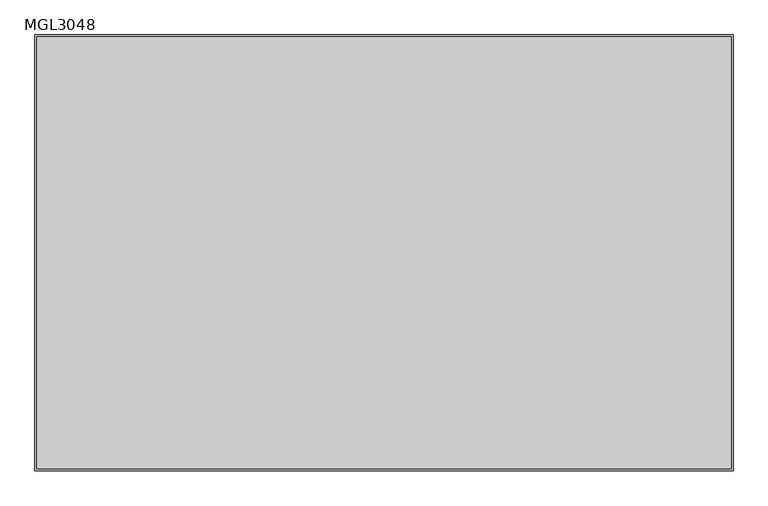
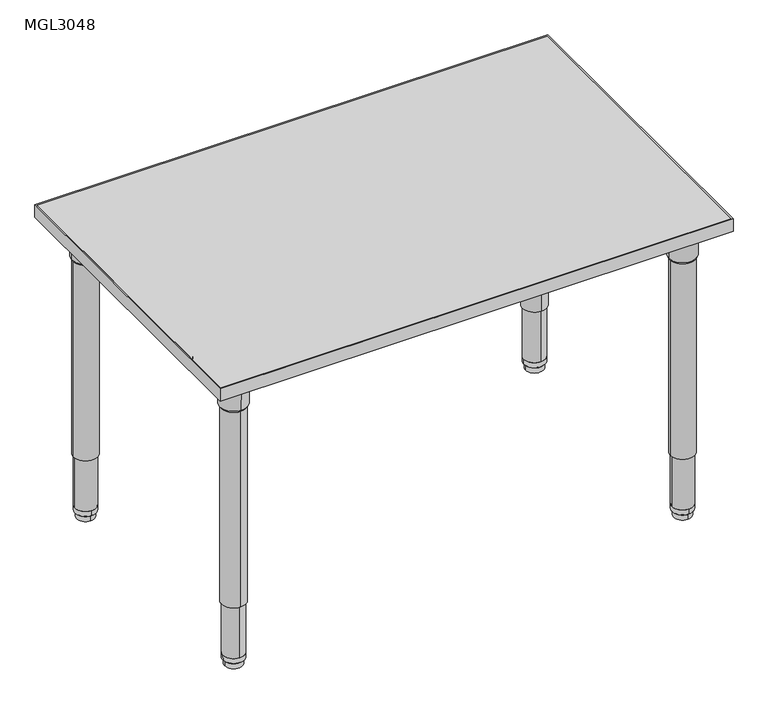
"""IFC4 building model written with IfcOpenShell, lengths in millimetres: furniture geometry, ERG-Mingle-Table-Rectangle : MGL3048."""

from ifc_helpers import new_model, si_unit, point, frame, frame_2d, origin, place, context, project, spatial, polyline, circle_curve, trimmed, segment, composite_curve, outline, extrude, source, transform, mapped, element, save
from ifc_brep_helpers import plane_surface, cylinder_surface, revolved_surface, advanced_brep


def mgl3048_d8aeffa5(model_context):
    return source(origin(), model_context, "Body", "SolidModel", [
        advanced_brep(
        [(503.3646842, -304.8, 650.5933069), (563.4353158, -304.8, 650.5933069), (533.4, -304.8, 650.5933069), (501.256117, -304.8, 654.3580481), (565.543883, -304.8, 654.3580481), (500.3206351, -304.8, 707.7631458), (566.4793649, -304.8, 707.7631458), (496.871083, -304.8, 714.1198315), (569.928917, -304.8, 714.1198315), (496.871083, -304.8, 726.8198315), (569.928917, -304.8, 726.8198315), (533.4, -304.8, 726.8198315)],
        [
            (0, 1, circle_curve(frame((533.4, -304.8, 650.5933069), z_axis=(0.0, 0.0, -1.0), x_axis=(1.0, 0.0, 0.0)), 30.0353158)),
            (1, 2),
            (2, 0),
            (1, 0, circle_curve(frame((533.4, -304.8, 650.5933069), z_axis=(0.0, 0.0, -1.0), x_axis=(1.0, 0.0, 0.0)), 30.0353158)),
            (3, 4, circle_curve(frame((533.4, -304.8, 654.3580481), z_axis=(0.0, 0.0, -1.0), x_axis=(1.0, 0.0, 0.0)), 32.143883)),
            (4, 1),
            (0, 3),
            (4, 3, circle_curve(frame((533.4, -304.8, 654.3580481), z_axis=(0.0, 0.0, -1.0), x_axis=(1.0, 0.0, 0.0)), 32.143883)),
            (5, 6, circle_curve(frame((533.4, -304.8, 707.7631458), z_axis=(0.0, 0.0, -1.0), x_axis=(1.0, 0.0, 0.0)), 33.0793649)),
            (6, 4),
            (3, 5),
            (6, 5, circle_curve(frame((533.4, -304.8, 707.7631458), z_axis=(0.0, 0.0, -1.0), x_axis=(1.0, 0.0, 0.0)), 33.0793649)),
            (7, 8, circle_curve(frame((533.4, -304.8, 714.1198315), z_axis=(0.0, 0.0, -1.0), x_axis=(1.0, 0.0, 0.0)), 36.528917)),
            (8, 6),
            (5, 7),
            (8, 7, circle_curve(frame((533.4, -304.8, 714.1198315), z_axis=(0.0, 0.0, -1.0), x_axis=(1.0, 0.0, 0.0)), 36.528917)),
            (9, 10, circle_curve(frame((533.4, -304.8, 726.8198315), z_axis=(0.0, 0.0, -1.0), x_axis=(1.0, 0.0, 0.0)), 36.528917)),
            (10, 8),
            (7, 9),
            (10, 9, circle_curve(frame((533.4, -304.8, 726.8198315), z_axis=(0.0, 0.0, -1.0), x_axis=(1.0, 0.0, 0.0)), 36.528917)),
            (11, 10),
            (9, 11),
        ],
        [
            plane_surface(frame((533.4, -304.8, 650.5933069), z_axis=(0.0, 0.0, -1.0), x_axis=(1.0, 0.0, 0.0))),
            revolved_surface(polyline([(563.4353158, -304.8, 650.5933069), (565.543883, -304.8, 654.3580481)]), (533.4, -304.8, 726.8198315), (0.0, 0.0, 1.0)),
            revolved_surface(polyline([(565.543883, -304.8, 654.3580481), (566.4793649, -304.8, 707.7631458)]), (533.4, -304.8, 726.8198315), (0.0, 0.0, 1.0)),
            revolved_surface(polyline([(566.4793649, -304.8, 707.7631458), (569.928917, -304.8, 714.1198315)]), (533.4, -304.8, 726.8198315), (0.0, 0.0, 1.0)),
            cylinder_surface(frame((533.4, -304.8, 726.8198315), z_axis=(0.0, 0.0, 1.0), x_axis=(1.0, 0.0, 0.0)), 36.528917),
            plane_surface(frame((533.4, -304.8, 726.8198315), z_axis=(0.0, 0.0, 1.0), x_axis=(1.0, 0.0, 0.0))),
        ],
        [
            (0, [[1, 2, 3]]),
            (0, [[4, -3, -2]]),
            (1, [[5, 6, -1, 7]]),
            (1, [[8, -7, -4, -6]]),
            (2, [[9, 10, -5, 11]]),
            (2, [[12, -11, -8, -10]]),
            (3, [[13, 14, -9, 15]]),
            (3, [[16, -15, -12, -14]]),
            (4, [[17, 18, -13, 19]]),
            (4, [[20, -19, -16, -18]]),
            (5, [[21, -17, 22]]),
            (5, [[-22, -20, -21]]),
        ],
    ),
        extrude(outline(composite_curve([segment(polyline([(579.273768, -222.2223426), (579.273768, -335.9483754)]), True, "CONTINUOUS"), segment(trimmed(circle_curve(frame_2d((563.398768, -335.9483754)), 15.875), [point((579.273768, -335.9483754))], [point((563.398768, -351.8233754))], False, "CARTESIAN"), True, "CONTINUOUS"), segment(polyline([(563.398768, -351.8233754), (449.6864205, -351.8233754)]), True, "CONTINUOUS"), segment(trimmed(circle_curve(frame_2d((449.6864205, -339.1233754)), 12.7), [point((449.6864205, -351.8233754))], [point((437.0491923, -337.8622394))], False, "CARTESIAN"), True, "CONTINUOUS"), segment(trimmed(circle_curve(frame_2d((579.5486077, -352.0830117)), 143.2072406), [point((437.0491923, -337.8622394))], [point((565.3111525, -209.5852622))], False, "CARTESIAN"), True, "CONTINUOUS"), segment(trimmed(circle_curve(frame_2d((566.573768, -222.2223426)), 12.7), [point((565.3111525, -209.5852622))], [point((579.273768, -222.2223426))], False, "CARTESIAN"), True, "CONTINUOUS")], self_intersect=False)), frame((0.0, 0.0, 726.8198315), z_axis=(0.0, 0.0, 1.0), x_axis=(1.0, 0.0, 0.0)), (0.0, 0.0, 1.0), 3.4301685),
        extrude(outline(composite_curve([segment(trimmed(circle_curve(frame_2d((533.4, -304.8)), 28.575), [point((561.975, -304.8))], [point((504.825, -304.8))], False, "CARTESIAN"), True, "CONTINUOUS"), segment(trimmed(circle_curve(frame_2d((533.4, -304.8)), 28.575), [point((504.825, -304.8))], [point((561.975, -304.8))], False, "CARTESIAN"), True, "CONTINUOUS")], self_intersect=False)), frame((0.0, 0.0, 158.3876979), z_axis=(0.0, 0.0, 1.0), x_axis=(1.0, 0.0, 0.0)), (0.0, 0.0, 1.0), 495.4089866),
        extrude(outline(composite_curve([segment(trimmed(circle_curve(frame_2d((533.4, -304.8)), 25.4), [point((558.8, -304.8))], [point((508.0, -304.8))], False, "CARTESIAN"), True, "CONTINUOUS"), segment(trimmed(circle_curve(frame_2d((533.4, -304.8)), 25.4), [point((508.0, -304.8))], [point((558.8, -304.8))], False, "CARTESIAN"), True, "CONTINUOUS")], self_intersect=False)), frame((0.0, 0.0, 28.9580435), z_axis=(0.0, 0.0, 1.0), x_axis=(1.0, 0.0, 0.0)), (0.0, 0.0, 1.0), 176.7049119),
        advanced_brep(
        [(533.4, -279.5649896, 28.9580185), (533.4, -330.0350104, 28.9580185), (533.4, -304.8, 28.9580185), (533.4, -279.700761, 16.3032949), (533.4, -329.899239, 16.3032949), (533.4, -281.2160619, 14.7291007), (533.4, -328.3839381, 14.7291007), (533.4, -283.6591422, 14.7291007), (533.4, -325.9408578, 14.7291007), (533.4, -283.8521336, 0.0), (533.4, -325.7478664, 0.0), (533.4, -304.8, 0.0)],
        [
            (0, 1, circle_curve(frame((533.4, -304.8, 28.9580185), z_axis=(0.0, 0.0, 1.0), x_axis=(0.0, -1.0, 0.0)), 25.2350104)),
            (1, 2),
            (2, 0),
            (1, 0, circle_curve(frame((533.4, -304.8, 28.9580185), z_axis=(0.0, 0.0, 1.0), x_axis=(0.0, -1.0, 0.0)), 25.2350104)),
            (3, 4, circle_curve(frame((533.4, -304.8, 16.3032949), z_axis=(0.0, 0.0, 1.0), x_axis=(0.0, -1.0, 0.0)), 25.099239)),
            (4, 1),
            (0, 3),
            (4, 3, circle_curve(frame((533.4, -304.8, 16.3032949), z_axis=(0.0, 0.0, 1.0), x_axis=(0.0, -1.0, 0.0)), 25.099239)),
            (5, 6, circle_curve(frame((533.4, -304.8, 14.7291007), z_axis=(0.0, 0.0, 1.0), x_axis=(0.0, -1.0, 0.0)), 23.5839381)),
            (6, 4),
            (3, 5),
            (6, 5, circle_curve(frame((533.4, -304.8, 14.7291007), z_axis=(0.0, 0.0, 1.0), x_axis=(0.0, -1.0, 0.0)), 23.5839381)),
            (7, 8, circle_curve(frame((533.4, -304.8, 14.7291007), z_axis=(0.0, 0.0, 1.0), x_axis=(0.0, -1.0, 0.0)), 21.1408578)),
            (8, 6),
            (5, 7),
            (8, 7, circle_curve(frame((533.4, -304.8, 14.7291007), z_axis=(0.0, 0.0, 1.0), x_axis=(0.0, -1.0, 0.0)), 21.1408578)),
            (9, 10, circle_curve(frame((533.4, -304.8, 0.0), z_axis=(0.0, 0.0, 1.0), x_axis=(0.0, -1.0, 0.0)), 20.9478664)),
            (10, 8),
            (7, 9),
            (10, 9, circle_curve(frame((533.4, -304.8, 0.0), z_axis=(0.0, 0.0, 1.0), x_axis=(0.0, -1.0, 0.0)), 20.9478664)),
            (11, 10),
            (9, 11),
        ],
        [
            plane_surface(frame((533.4, -304.8, 28.9580185), z_axis=(0.0, 0.0, 1.0), x_axis=(0.0, -1.0, 0.0))),
            revolved_surface(polyline([(533.4, -330.0350104, 28.9580185), (533.4, -329.899239, 16.3032949)]), (533.4, -304.8, 0.0), (0.0, 0.0, -1.0)),
            revolved_surface(polyline([(533.4, -329.899239, 16.3032949), (533.4, -328.3839381, 14.7291007)]), (533.4, -304.8, 0.0), (0.0, 0.0, -1.0)),
            plane_surface(frame((533.4, -304.8, 14.7291007), z_axis=(0.0, 0.0, -1.0), x_axis=(0.0, -1.0, 0.0))),
            revolved_surface(polyline([(533.4, -325.9408578, 14.7291007), (533.4, -325.7478664, 0.0)]), (533.4, -304.8, 0.0), (0.0, 0.0, -1.0)),
            plane_surface(frame((533.4, -304.8, 0.0), z_axis=(0.0, 0.0, -1.0), x_axis=(0.0, -1.0, 0.0))),
        ],
        [
            (0, [[1, 2, 3]]),
            (0, [[4, -3, -2]]),
            (1, [[5, 6, -1, 7]]),
            (1, [[8, -7, -4, -6]]),
            (2, [[9, 10, -5, 11]]),
            (2, [[12, -11, -8, -10]]),
            (3, [[13, 14, -9, 15]]),
            (3, [[16, -15, -12, -14]]),
            (4, [[17, 18, -13, 19]]),
            (4, [[20, -19, -16, -18]]),
            (5, [[21, -17, 22]]),
            (5, [[-22, -20, -21]]),
        ],
    ),
        advanced_brep(
        [(-533.4, -274.7646842, 650.5933069), (-533.4, -334.8353158, 650.5933069), (-533.4, -304.8, 650.5933069), (-533.4, -272.656117, 654.3580481), (-533.4, -336.943883, 654.3580481), (-533.4, -271.7206351, 707.7631458), (-533.4, -337.8793649, 707.7631458), (-533.4, -268.271083, 714.1198315), (-533.4, -341.328917, 714.1198315), (-533.4, -268.271083, 726.8198315), (-533.4, -341.328917, 726.8198315), (-533.4, -304.8, 726.8198315)],
        [
            (0, 1, circle_curve(frame((-533.4, -304.8, 650.5933069), z_axis=(0.0, 0.0, -1.0), x_axis=(0.0, -1.0, 0.0)), 30.0353158)),
            (1, 2),
            (2, 0),
            (1, 0, circle_curve(frame((-533.4, -304.8, 650.5933069), z_axis=(0.0, 0.0, -1.0), x_axis=(0.0, -1.0, 0.0)), 30.0353158)),
            (3, 4, circle_curve(frame((-533.4, -304.8, 654.3580481), z_axis=(0.0, 0.0, -1.0), x_axis=(0.0, -1.0, 0.0)), 32.143883)),
            (4, 1),
            (0, 3),
            (4, 3, circle_curve(frame((-533.4, -304.8, 654.3580481), z_axis=(0.0, 0.0, -1.0), x_axis=(0.0, -1.0, 0.0)), 32.143883)),
            (5, 6, circle_curve(frame((-533.4, -304.8, 707.7631458), z_axis=(0.0, 0.0, -1.0), x_axis=(0.0, -1.0, 0.0)), 33.0793649)),
            (6, 4),
            (3, 5),
            (6, 5, circle_curve(frame((-533.4, -304.8, 707.7631458), z_axis=(0.0, 0.0, -1.0), x_axis=(0.0, -1.0, 0.0)), 33.0793649)),
            (7, 8, circle_curve(frame((-533.4, -304.8, 714.1198315), z_axis=(0.0, 0.0, -1.0), x_axis=(0.0, -1.0, 0.0)), 36.528917)),
            (8, 6),
            (5, 7),
            (8, 7, circle_curve(frame((-533.4, -304.8, 714.1198315), z_axis=(0.0, 0.0, -1.0), x_axis=(0.0, -1.0, 0.0)), 36.528917)),
            (9, 10, circle_curve(frame((-533.4, -304.8, 726.8198315), z_axis=(0.0, 0.0, -1.0), x_axis=(0.0, -1.0, 0.0)), 36.528917)),
            (10, 8),
            (7, 9),
            (10, 9, circle_curve(frame((-533.4, -304.8, 726.8198315), z_axis=(0.0, 0.0, -1.0), x_axis=(0.0, -1.0, 0.0)), 36.528917)),
            (11, 10),
            (9, 11),
        ],
        [
            plane_surface(frame((-533.4, -304.8, 650.5933069), z_axis=(0.0, 0.0, -1.0), x_axis=(0.0, -1.0, 0.0))),
            revolved_surface(polyline([(-533.4, -334.8353158, 650.5933069), (-533.4, -336.943883, 654.3580481)]), (-533.4, -304.8, 726.8198315), (0.0, 0.0, 1.0)),
            revolved_surface(polyline([(-533.4, -336.943883, 654.3580481), (-533.4, -337.8793649, 707.7631458)]), (-533.4, -304.8, 726.8198315), (0.0, 0.0, 1.0)),
            revolved_surface(polyline([(-533.4, -337.8793649, 707.7631458), (-533.4, -341.328917, 714.1198315)]), (-533.4, -304.8, 726.8198315), (0.0, 0.0, 1.0)),
            cylinder_surface(frame((-533.4, -304.8, 726.8198315), z_axis=(0.0, 0.0, 1.0), x_axis=(0.0, -1.0, 0.0)), 36.528917),
            plane_surface(frame((-533.4, -304.8, 726.8198315), z_axis=(0.0, 0.0, 1.0), x_axis=(0.0, -1.0, 0.0))),
        ],
        [
            (0, [[1, 2, 3]]),
            (0, [[4, -3, -2]]),
            (1, [[5, 6, -1, 7]]),
            (1, [[8, -7, -4, -6]]),
            (2, [[9, 10, -5, 11]]),
            (2, [[12, -11, -8, -10]]),
            (3, [[13, 14, -9, 15]]),
            (3, [[16, -15, -12, -14]]),
            (4, [[17, 18, -13, 19]]),
            (4, [[20, -19, -16, -18]]),
            (5, [[21, -17, 22]]),
            (5, [[-22, -20, -21]]),
        ],
    ),
        extrude(outline(composite_curve([segment(polyline([(-450.8223426, -350.673768), (-564.5483754, -350.673768)]), True, "CONTINUOUS"), segment(trimmed(circle_curve(frame_2d((-564.5483754, -334.798768)), 15.875), [point((-564.5483754, -350.673768))], [point((-580.4233754, -334.798768))], False, "CARTESIAN"), True, "CONTINUOUS"), segment(polyline([(-580.4233754, -334.798768), (-580.4233754, -221.0864205)]), True, "CONTINUOUS"), segment(trimmed(circle_curve(frame_2d((-567.7233754, -221.0864205)), 12.7), [point((-580.4233754, -221.0864205))], [point((-566.4622394, -208.4491923))], False, "CARTESIAN"), True, "CONTINUOUS"), segment(trimmed(circle_curve(frame_2d((-580.6830117, -350.9486077)), 143.2072406), [point((-566.4622394, -208.4491923))], [point((-438.1852622, -336.7111525))], False, "CARTESIAN"), True, "CONTINUOUS"), segment(trimmed(circle_curve(frame_2d((-450.8223426, -337.973768)), 12.7), [point((-438.1852622, -336.7111525))], [point((-450.8223426, -350.673768))], False, "CARTESIAN"), True, "CONTINUOUS")], self_intersect=False)), frame((0.0, 0.0, 726.8198315), z_axis=(0.0, 0.0, 1.0), x_axis=(1.0, 0.0, 0.0)), (0.0, 0.0, 1.0), 3.4301685),
        extrude(outline(composite_curve([segment(trimmed(circle_curve(frame_2d((-533.4, -304.8)), 28.575), [point((-533.4, -333.375))], [point((-533.4, -276.225))], False, "CARTESIAN"), True, "CONTINUOUS"), segment(trimmed(circle_curve(frame_2d((-533.4, -304.8)), 28.575), [point((-533.4, -276.225))], [point((-533.4, -333.375))], False, "CARTESIAN"), True, "CONTINUOUS")], self_intersect=False)), frame((0.0, 0.0, 158.3876979), z_axis=(0.0, 0.0, 1.0), x_axis=(1.0, 0.0, 0.0)), (0.0, 0.0, 1.0), 495.4089866),
        extrude(outline(composite_curve([segment(trimmed(circle_curve(frame_2d((-533.4, -304.8)), 25.4), [point((-533.4, -330.2))], [point((-533.4, -279.4))], False, "CARTESIAN"), True, "CONTINUOUS"), segment(trimmed(circle_curve(frame_2d((-533.4, -304.8)), 25.4), [point((-533.4, -279.4))], [point((-533.4, -330.2))], False, "CARTESIAN"), True, "CONTINUOUS")], self_intersect=False)), frame((0.0, 0.0, 28.9580435), z_axis=(0.0, 0.0, 1.0), x_axis=(1.0, 0.0, 0.0)), (0.0, 0.0, 1.0), 176.7049119),
        advanced_brep(
        [(-508.1649896, -304.8, 28.9580185), (-558.6350104, -304.8, 28.9580185), (-533.4, -304.8, 28.9580185), (-508.300761, -304.8, 16.3032949), (-558.499239, -304.8, 16.3032949), (-509.8160619, -304.8, 14.7291007), (-556.9839381, -304.8, 14.7291007), (-512.2591422, -304.8, 14.7291007), (-554.5408578, -304.8, 14.7291007), (-512.4521336, -304.8, 0.0), (-554.3478664, -304.8, 0.0), (-533.4, -304.8, 0.0)],
        [
            (0, 1, circle_curve(frame((-533.4, -304.8, 28.9580185), z_axis=(0.0, 0.0, 1.0), x_axis=(-1.0, 0.0, 0.0)), 25.2350104)),
            (1, 2),
            (2, 0),
            (1, 0, circle_curve(frame((-533.4, -304.8, 28.9580185), z_axis=(0.0, 0.0, 1.0), x_axis=(-1.0, 0.0, 0.0)), 25.2350104)),
            (3, 4, circle_curve(frame((-533.4, -304.8, 16.3032949), z_axis=(0.0, 0.0, 1.0), x_axis=(-1.0, 0.0, 0.0)), 25.099239)),
            (4, 1),
            (0, 3),
            (4, 3, circle_curve(frame((-533.4, -304.8, 16.3032949), z_axis=(0.0, 0.0, 1.0), x_axis=(-1.0, 0.0, 0.0)), 25.099239)),
            (5, 6, circle_curve(frame((-533.4, -304.8, 14.7291007), z_axis=(0.0, 0.0, 1.0), x_axis=(-1.0, 0.0, 0.0)), 23.5839381)),
            (6, 4),
            (3, 5),
            (6, 5, circle_curve(frame((-533.4, -304.8, 14.7291007), z_axis=(0.0, 0.0, 1.0), x_axis=(-1.0, 0.0, 0.0)), 23.5839381)),
            (7, 8, circle_curve(frame((-533.4, -304.8, 14.7291007), z_axis=(0.0, 0.0, 1.0), x_axis=(-1.0, 0.0, 0.0)), 21.1408578)),
            (8, 6),
            (5, 7),
            (8, 7, circle_curve(frame((-533.4, -304.8, 14.7291007), z_axis=(0.0, 0.0, 1.0), x_axis=(-1.0, 0.0, 0.0)), 21.1408578)),
            (9, 10, circle_curve(frame((-533.4, -304.8, 0.0), z_axis=(0.0, 0.0, 1.0), x_axis=(-1.0, 0.0, 0.0)), 20.9478664)),
            (10, 8),
            (7, 9),
            (10, 9, circle_curve(frame((-533.4, -304.8, 0.0), z_axis=(0.0, 0.0, 1.0), x_axis=(-1.0, 0.0, 0.0)), 20.9478664)),
            (11, 10),
            (9, 11),
        ],
        [
            plane_surface(frame((-533.4, -304.8, 28.9580185), z_axis=(0.0, 0.0, 1.0), x_axis=(-1.0, 0.0, 0.0))),
            revolved_surface(polyline([(-558.6350104, -304.8, 28.9580185), (-558.499239, -304.8, 16.3032949)]), (-533.4, -304.8, 0.0), (0.0, 0.0, -1.0)),
            revolved_surface(polyline([(-558.499239, -304.8, 16.3032949), (-556.9839381, -304.8, 14.7291007)]), (-533.4, -304.8, 0.0), (0.0, 0.0, -1.0)),
            plane_surface(frame((-533.4, -304.8, 14.7291007), z_axis=(0.0, 0.0, -1.0), x_axis=(-1.0, 0.0, 0.0))),
            revolved_surface(polyline([(-554.5408578, -304.8, 14.7291007), (-554.3478664, -304.8, 0.0)]), (-533.4, -304.8, 0.0), (0.0, 0.0, -1.0)),
            plane_surface(frame((-533.4, -304.8, 0.0), z_axis=(0.0, 0.0, -1.0), x_axis=(-1.0, 0.0, 0.0))),
        ],
        [
            (0, [[1, 2, 3]]),
            (0, [[4, -3, -2]]),
            (1, [[5, 6, -1, 7]]),
            (1, [[8, -7, -4, -6]]),
            (2, [[9, 10, -5, 11]]),
            (2, [[12, -11, -8, -10]]),
            (3, [[13, 14, -9, 15]]),
            (3, [[16, -15, -12, -14]]),
            (4, [[17, 18, -13, 19]]),
            (4, [[20, -19, -16, -18]]),
            (5, [[21, -17, 22]]),
            (5, [[-22, -20, -21]]),
        ],
    ),
        advanced_brep(
        [(533.4, 274.7646842, 650.5933069), (533.4, 334.8353158, 650.5933069), (533.4, 304.8, 650.5933069), (533.4, 272.656117, 654.3580481), (533.4, 336.943883, 654.3580481), (533.4, 271.7206351, 707.7631458), (533.4, 337.8793649, 707.7631458), (533.4, 268.271083, 714.1198315), (533.4, 341.328917, 714.1198315), (533.4, 268.271083, 726.8198315), (533.4, 341.328917, 726.8198315), (533.4, 304.8, 726.8198315)],
        [
            (0, 1, circle_curve(frame((533.4, 304.8, 650.5933069), z_axis=(0.0, 0.0, -1.0), x_axis=(0.0, 1.0, 0.0)), 30.0353158)),
            (1, 2),
            (2, 0),
            (1, 0, circle_curve(frame((533.4, 304.8, 650.5933069), z_axis=(0.0, 0.0, -1.0), x_axis=(0.0, 1.0, 0.0)), 30.0353158)),
            (3, 4, circle_curve(frame((533.4, 304.8, 654.3580481), z_axis=(0.0, 0.0, -1.0), x_axis=(0.0, 1.0, 0.0)), 32.143883)),
            (4, 1),
            (0, 3),
            (4, 3, circle_curve(frame((533.4, 304.8, 654.3580481), z_axis=(0.0, 0.0, -1.0), x_axis=(0.0, 1.0, 0.0)), 32.143883)),
            (5, 6, circle_curve(frame((533.4, 304.8, 707.7631458), z_axis=(0.0, 0.0, -1.0), x_axis=(0.0, 1.0, 0.0)), 33.0793649)),
            (6, 4),
            (3, 5),
            (6, 5, circle_curve(frame((533.4, 304.8, 707.7631458), z_axis=(0.0, 0.0, -1.0), x_axis=(0.0, 1.0, 0.0)), 33.0793649)),
            (7, 8, circle_curve(frame((533.4, 304.8, 714.1198315), z_axis=(0.0, 0.0, -1.0), x_axis=(0.0, 1.0, 0.0)), 36.528917)),
            (8, 6),
            (5, 7),
            (8, 7, circle_curve(frame((533.4, 304.8, 714.1198315), z_axis=(0.0, 0.0, -1.0), x_axis=(0.0, 1.0, 0.0)), 36.528917)),
            (9, 10, circle_curve(frame((533.4, 304.8, 726.8198315), z_axis=(0.0, 0.0, -1.0), x_axis=(0.0, 1.0, 0.0)), 36.528917)),
            (10, 8),
            (7, 9),
            (10, 9, circle_curve(frame((533.4, 304.8, 726.8198315), z_axis=(0.0, 0.0, -1.0), x_axis=(0.0, 1.0, 0.0)), 36.528917)),
            (11, 10),
            (9, 11),
        ],
        [
            plane_surface(frame((533.4, 304.8, 650.5933069), z_axis=(0.0, 0.0, -1.0), x_axis=(0.0, 1.0, 0.0))),
            revolved_surface(polyline([(533.4, 334.8353158, 650.5933069), (533.4, 336.943883, 654.3580481)]), (533.4, 304.8, 726.8198315), (0.0, 0.0, 1.0)),
            revolved_surface(polyline([(533.4, 336.943883, 654.3580481), (533.4, 337.8793649, 707.7631458)]), (533.4, 304.8, 726.8198315), (0.0, 0.0, 1.0)),
            revolved_surface(polyline([(533.4, 337.8793649, 707.7631458), (533.4, 341.328917, 714.1198315)]), (533.4, 304.8, 726.8198315), (0.0, 0.0, 1.0)),
            cylinder_surface(frame((533.4, 304.8, 726.8198315), z_axis=(0.0, 0.0, 1.0), x_axis=(0.0, 1.0, 0.0)), 36.528917),
            plane_surface(frame((533.4, 304.8, 726.8198315), z_axis=(0.0, 0.0, 1.0), x_axis=(0.0, 1.0, 0.0))),
        ],
        [
            (0, [[1, 2, 3]]),
            (0, [[4, -3, -2]]),
            (1, [[5, 6, -1, 7]]),
            (1, [[8, -7, -4, -6]]),
            (2, [[9, 10, -5, 11]]),
            (2, [[12, -11, -8, -10]]),
            (3, [[13, 14, -9, 15]]),
            (3, [[16, -15, -12, -14]]),
            (4, [[17, 18, -13, 19]]),
            (4, [[20, -19, -16, -18]]),
            (5, [[21, -17, 22]]),
            (5, [[-22, -20, -21]]),
        ],
    ),
        extrude(outline(composite_curve([segment(polyline([(450.8223426, 350.673768), (564.5483754, 350.673768)]), True, "CONTINUOUS"), segment(trimmed(circle_curve(frame_2d((564.5483754, 334.798768)), 15.875), [point((564.5483754, 350.673768))], [point((580.4233754, 334.798768))], False, "CARTESIAN"), True, "CONTINUOUS"), segment(polyline([(580.4233754, 334.798768), (580.4233754, 221.0864205)]), True, "CONTINUOUS"), segment(trimmed(circle_curve(frame_2d((567.7233754, 221.0864205)), 12.7), [point((580.4233754, 221.0864205))], [point((566.4622394, 208.4491923))], False, "CARTESIAN"), True, "CONTINUOUS"), segment(trimmed(circle_curve(frame_2d((580.6830117, 350.9486077)), 143.2072406), [point((566.4622394, 208.4491923))], [point((438.1852622, 336.7111525))], False, "CARTESIAN"), True, "CONTINUOUS"), segment(trimmed(circle_curve(frame_2d((450.8223426, 337.973768)), 12.7), [point((438.1852622, 336.7111525))], [point((450.8223426, 350.673768))], False, "CARTESIAN"), True, "CONTINUOUS")], self_intersect=False)), frame((0.0, 0.0, 726.8198315), z_axis=(0.0, 0.0, 1.0), x_axis=(1.0, 0.0, 0.0)), (0.0, 0.0, 1.0), 3.4301685),
        extrude(outline(composite_curve([segment(trimmed(circle_curve(frame_2d((533.4, 304.8)), 28.575), [point((533.4, 333.375))], [point((533.4, 276.225))], False, "CARTESIAN"), True, "CONTINUOUS"), segment(trimmed(circle_curve(frame_2d((533.4, 304.8)), 28.575), [point((533.4, 276.225))], [point((533.4, 333.375))], False, "CARTESIAN"), True, "CONTINUOUS")], self_intersect=False)), frame((0.0, 0.0, 158.3876979), z_axis=(0.0, 0.0, 1.0), x_axis=(1.0, 0.0, 0.0)), (0.0, 0.0, 1.0), 495.4089866),
        extrude(outline(composite_curve([segment(trimmed(circle_curve(frame_2d((533.4, 304.8)), 25.4), [point((533.4, 330.2))], [point((533.4, 279.4))], False, "CARTESIAN"), True, "CONTINUOUS"), segment(trimmed(circle_curve(frame_2d((533.4, 304.8)), 25.4), [point((533.4, 279.4))], [point((533.4, 330.2))], False, "CARTESIAN"), True, "CONTINUOUS")], self_intersect=False)), frame((0.0, 0.0, 28.9580435), z_axis=(0.0, 0.0, 1.0), x_axis=(1.0, 0.0, 0.0)), (0.0, 0.0, 1.0), 176.7049119),
        advanced_brep(
        [(508.1649896, 304.8, 28.9580185), (558.6350104, 304.8, 28.9580185), (533.4, 304.8, 28.9580185), (508.300761, 304.8, 16.3032949), (558.499239, 304.8, 16.3032949), (509.8160619, 304.8, 14.7291007), (556.9839381, 304.8, 14.7291007), (512.2591422, 304.8, 14.7291007), (554.5408578, 304.8, 14.7291007), (512.4521336, 304.8, 0.0), (554.3478664, 304.8, 0.0), (533.4, 304.8, 0.0)],
        [
            (0, 1, circle_curve(frame((533.4, 304.8, 28.9580185), z_axis=(0.0, 0.0, 1.0), x_axis=(1.0, 0.0, 0.0)), 25.2350104)),
            (1, 2),
            (2, 0),
            (1, 0, circle_curve(frame((533.4, 304.8, 28.9580185), z_axis=(0.0, 0.0, 1.0), x_axis=(1.0, 0.0, 0.0)), 25.2350104)),
            (3, 4, circle_curve(frame((533.4, 304.8, 16.3032949), z_axis=(0.0, 0.0, 1.0), x_axis=(1.0, 0.0, 0.0)), 25.099239)),
            (4, 1),
            (0, 3),
            (4, 3, circle_curve(frame((533.4, 304.8, 16.3032949), z_axis=(0.0, 0.0, 1.0), x_axis=(1.0, 0.0, 0.0)), 25.099239)),
            (5, 6, circle_curve(frame((533.4, 304.8, 14.7291007), z_axis=(0.0, 0.0, 1.0), x_axis=(1.0, 0.0, 0.0)), 23.5839381)),
            (6, 4),
            (3, 5),
            (6, 5, circle_curve(frame((533.4, 304.8, 14.7291007), z_axis=(0.0, 0.0, 1.0), x_axis=(1.0, 0.0, 0.0)), 23.5839381)),
            (7, 8, circle_curve(frame((533.4, 304.8, 14.7291007), z_axis=(0.0, 0.0, 1.0), x_axis=(1.0, 0.0, 0.0)), 21.1408578)),
            (8, 6),
            (5, 7),
            (8, 7, circle_curve(frame((533.4, 304.8, 14.7291007), z_axis=(0.0, 0.0, 1.0), x_axis=(1.0, 0.0, 0.0)), 21.1408578)),
            (9, 10, circle_curve(frame((533.4, 304.8, 0.0), z_axis=(0.0, 0.0, 1.0), x_axis=(1.0, 0.0, 0.0)), 20.9478664)),
            (10, 8),
            (7, 9),
            (10, 9, circle_curve(frame((533.4, 304.8, 0.0), z_axis=(0.0, 0.0, 1.0), x_axis=(1.0, 0.0, 0.0)), 20.9478664)),
            (11, 10),
            (9, 11),
        ],
        [
            plane_surface(frame((533.4, 304.8, 28.9580185), z_axis=(0.0, 0.0, 1.0), x_axis=(1.0, 0.0, 0.0))),
            revolved_surface(polyline([(558.6350104, 304.8, 28.9580185), (558.499239, 304.8, 16.3032949)]), (533.4, 304.8, 0.0), (0.0, 0.0, -1.0)),
            revolved_surface(polyline([(558.499239, 304.8, 16.3032949), (556.9839381, 304.8, 14.7291007)]), (533.4, 304.8, 0.0), (0.0, 0.0, -1.0)),
            plane_surface(frame((533.4, 304.8, 14.7291007), z_axis=(0.0, 0.0, -1.0), x_axis=(1.0, 0.0, 0.0))),
            revolved_surface(polyline([(554.5408578, 304.8, 14.7291007), (554.3478664, 304.8, 0.0)]), (533.4, 304.8, 0.0), (0.0, 0.0, -1.0)),
            plane_surface(frame((533.4, 304.8, 0.0), z_axis=(0.0, 0.0, -1.0), x_axis=(1.0, 0.0, 0.0))),
        ],
        [
            (0, [[1, 2, 3]]),
            (0, [[4, -3, -2]]),
            (1, [[5, 6, -1, 7]]),
            (1, [[8, -7, -4, -6]]),
            (2, [[9, 10, -5, 11]]),
            (2, [[12, -11, -8, -10]]),
            (3, [[13, 14, -9, 15]]),
            (3, [[16, -15, -12, -14]]),
            (4, [[17, 18, -13, 19]]),
            (4, [[20, -19, -16, -18]]),
            (5, [[21, -17, 22]]),
            (5, [[-22, -20, -21]]),
        ],
    ),
        advanced_brep(
        [(-503.3646842, 304.8, 650.5933069), (-563.4353158, 304.8, 650.5933069), (-533.4, 304.8, 650.5933069), (-501.256117, 304.8, 654.3580481), (-565.543883, 304.8, 654.3580481), (-500.3206351, 304.8, 707.7631458), (-566.4793649, 304.8, 707.7631458), (-496.871083, 304.8, 714.1198315), (-569.928917, 304.8, 714.1198315), (-496.871083, 304.8, 726.8198315), (-569.928917, 304.8, 726.8198315), (-533.4, 304.8, 726.8198315)],
        [
            (0, 1, circle_curve(frame((-533.4, 304.8, 650.5933069), z_axis=(0.0, 0.0, -1.0), x_axis=(-1.0, 0.0, 0.0)), 30.0353158)),
            (1, 2),
            (2, 0),
            (1, 0, circle_curve(frame((-533.4, 304.8, 650.5933069), z_axis=(0.0, 0.0, -1.0), x_axis=(-1.0, 0.0, 0.0)), 30.0353158)),
            (3, 4, circle_curve(frame((-533.4, 304.8, 654.3580481), z_axis=(0.0, 0.0, -1.0), x_axis=(-1.0, 0.0, 0.0)), 32.143883)),
            (4, 1),
            (0, 3),
            (4, 3, circle_curve(frame((-533.4, 304.8, 654.3580481), z_axis=(0.0, 0.0, -1.0), x_axis=(-1.0, 0.0, 0.0)), 32.143883)),
            (5, 6, circle_curve(frame((-533.4, 304.8, 707.7631458), z_axis=(0.0, 0.0, -1.0), x_axis=(-1.0, 0.0, 0.0)), 33.0793649)),
            (6, 4),
            (3, 5),
            (6, 5, circle_curve(frame((-533.4, 304.8, 707.7631458), z_axis=(0.0, 0.0, -1.0), x_axis=(-1.0, 0.0, 0.0)), 33.0793649)),
            (7, 8, circle_curve(frame((-533.4, 304.8, 714.1198315), z_axis=(0.0, 0.0, -1.0), x_axis=(-1.0, 0.0, 0.0)), 36.528917)),
            (8, 6),
            (5, 7),
            (8, 7, circle_curve(frame((-533.4, 304.8, 714.1198315), z_axis=(0.0, 0.0, -1.0), x_axis=(-1.0, 0.0, 0.0)), 36.528917)),
            (9, 10, circle_curve(frame((-533.4, 304.8, 726.8198315), z_axis=(0.0, 0.0, -1.0), x_axis=(-1.0, 0.0, 0.0)), 36.528917)),
            (10, 8),
            (7, 9),
            (10, 9, circle_curve(frame((-533.4, 304.8, 726.8198315), z_axis=(0.0, 0.0, -1.0), x_axis=(-1.0, 0.0, 0.0)), 36.528917)),
            (11, 10),
            (9, 11),
        ],
        [
            plane_surface(frame((-533.4, 304.8, 650.5933069), z_axis=(0.0, 0.0, -1.0), x_axis=(-1.0, 0.0, 0.0))),
            revolved_surface(polyline([(-563.4353158, 304.8, 650.5933069), (-565.543883, 304.8, 654.3580481)]), (-533.4, 304.8, 726.8198315), (0.0, 0.0, 1.0)),
            revolved_surface(polyline([(-565.543883, 304.8, 654.3580481), (-566.4793649, 304.8, 707.7631458)]), (-533.4, 304.8, 726.8198315), (0.0, 0.0, 1.0)),
            revolved_surface(polyline([(-566.4793649, 304.8, 707.7631458), (-569.928917, 304.8, 714.1198315)]), (-533.4, 304.8, 726.8198315), (0.0, 0.0, 1.0)),
            cylinder_surface(frame((-533.4, 304.8, 726.8198315), z_axis=(0.0, 0.0, 1.0), x_axis=(-1.0, 0.0, 0.0)), 36.528917),
            plane_surface(frame((-533.4, 304.8, 726.8198315), z_axis=(0.0, 0.0, 1.0), x_axis=(-1.0, 0.0, 0.0))),
        ],
        [
            (0, [[1, 2, 3]]),
            (0, [[4, -3, -2]]),
            (1, [[5, 6, -1, 7]]),
            (1, [[8, -7, -4, -6]]),
            (2, [[9, 10, -5, 11]]),
            (2, [[12, -11, -8, -10]]),
            (3, [[13, 14, -9, 15]]),
            (3, [[16, -15, -12, -14]]),
            (4, [[17, 18, -13, 19]]),
            (4, [[20, -19, -16, -18]]),
            (5, [[21, -17, 22]]),
            (5, [[-22, -20, -21]]),
        ],
    ),
        extrude(outline(composite_curve([segment(polyline([(-579.273768, 222.2223426), (-579.273768, 335.9483754)]), True, "CONTINUOUS"), segment(trimmed(circle_curve(frame_2d((-563.398768, 335.9483754)), 15.875), [point((-579.273768, 335.9483754))], [point((-563.398768, 351.8233754))], False, "CARTESIAN"), True, "CONTINUOUS"), segment(polyline([(-563.398768, 351.8233754), (-449.6864205, 351.8233754)]), True, "CONTINUOUS"), segment(trimmed(circle_curve(frame_2d((-449.6864205, 339.1233754)), 12.7), [point((-449.6864205, 351.8233754))], [point((-437.0491923, 337.8622394))], False, "CARTESIAN"), True, "CONTINUOUS"), segment(trimmed(circle_curve(frame_2d((-579.5486077, 352.0830117)), 143.2072406), [point((-437.0491923, 337.8622394))], [point((-565.3111525, 209.5852622))], False, "CARTESIAN"), True, "CONTINUOUS"), segment(trimmed(circle_curve(frame_2d((-566.573768, 222.2223426)), 12.7), [point((-565.3111525, 209.5852622))], [point((-579.273768, 222.2223426))], False, "CARTESIAN"), True, "CONTINUOUS")], self_intersect=False)), frame((0.0, 0.0, 726.8198315), z_axis=(0.0, 0.0, 1.0), x_axis=(1.0, 0.0, 0.0)), (0.0, 0.0, 1.0), 3.4301685),
        extrude(outline(composite_curve([segment(trimmed(circle_curve(frame_2d((-533.4, 304.8)), 28.575), [point((-561.975, 304.8))], [point((-504.825, 304.8))], False, "CARTESIAN"), True, "CONTINUOUS"), segment(trimmed(circle_curve(frame_2d((-533.4, 304.8)), 28.575), [point((-504.825, 304.8))], [point((-561.975, 304.8))], False, "CARTESIAN"), True, "CONTINUOUS")], self_intersect=False)), frame((0.0, 0.0, 158.3876979), z_axis=(0.0, 0.0, 1.0), x_axis=(1.0, 0.0, 0.0)), (0.0, 0.0, 1.0), 495.4089866),
        extrude(outline(composite_curve([segment(trimmed(circle_curve(frame_2d((-533.4, 304.8)), 25.4), [point((-558.8, 304.8))], [point((-508.0, 304.8))], False, "CARTESIAN"), True, "CONTINUOUS"), segment(trimmed(circle_curve(frame_2d((-533.4, 304.8)), 25.4), [point((-508.0, 304.8))], [point((-558.8, 304.8))], False, "CARTESIAN"), True, "CONTINUOUS")], self_intersect=False)), frame((0.0, 0.0, 28.9580435), z_axis=(0.0, 0.0, 1.0), x_axis=(1.0, 0.0, 0.0)), (0.0, 0.0, 1.0), 176.7049119),
        advanced_brep(
        [(-533.4, 279.5649896, 28.9580185), (-533.4, 330.0350104, 28.9580185), (-533.4, 304.8, 28.9580185), (-533.4, 279.700761, 16.3032949), (-533.4, 329.899239, 16.3032949), (-533.4, 281.2160619, 14.7291007), (-533.4, 328.3839381, 14.7291007), (-533.4, 283.6591422, 14.7291007), (-533.4, 325.9408578, 14.7291007), (-533.4, 283.8521336, 0.0), (-533.4, 325.7478664, 0.0), (-533.4, 304.8, 0.0)],
        [
            (0, 1, circle_curve(frame((-533.4, 304.8, 28.9580185), z_axis=(0.0, 0.0, 1.0), x_axis=(0.0, 1.0, 0.0)), 25.2350104)),
            (1, 2),
            (2, 0),
            (1, 0, circle_curve(frame((-533.4, 304.8, 28.9580185), z_axis=(0.0, 0.0, 1.0), x_axis=(0.0, 1.0, 0.0)), 25.2350104)),
            (3, 4, circle_curve(frame((-533.4, 304.8, 16.3032949), z_axis=(0.0, 0.0, 1.0), x_axis=(0.0, 1.0, 0.0)), 25.099239)),
            (4, 1),
            (0, 3),
            (4, 3, circle_curve(frame((-533.4, 304.8, 16.3032949), z_axis=(0.0, 0.0, 1.0), x_axis=(0.0, 1.0, 0.0)), 25.099239)),
            (5, 6, circle_curve(frame((-533.4, 304.8, 14.7291007), z_axis=(0.0, 0.0, 1.0), x_axis=(0.0, 1.0, 0.0)), 23.5839381)),
            (6, 4),
            (3, 5),
            (6, 5, circle_curve(frame((-533.4, 304.8, 14.7291007), z_axis=(0.0, 0.0, 1.0), x_axis=(0.0, 1.0, 0.0)), 23.5839381)),
            (7, 8, circle_curve(frame((-533.4, 304.8, 14.7291007), z_axis=(0.0, 0.0, 1.0), x_axis=(0.0, 1.0, 0.0)), 21.1408578)),
            (8, 6),
            (5, 7),
            (8, 7, circle_curve(frame((-533.4, 304.8, 14.7291007), z_axis=(0.0, 0.0, 1.0), x_axis=(0.0, 1.0, 0.0)), 21.1408578)),
            (9, 10, circle_curve(frame((-533.4, 304.8, 0.0), z_axis=(0.0, 0.0, 1.0), x_axis=(0.0, 1.0, 0.0)), 20.9478664)),
            (10, 8),
            (7, 9),
            (10, 9, circle_curve(frame((-533.4, 304.8, 0.0), z_axis=(0.0, 0.0, 1.0), x_axis=(0.0, 1.0, 0.0)), 20.9478664)),
            (11, 10),
            (9, 11),
        ],
        [
            plane_surface(frame((-533.4, 304.8, 28.9580185), z_axis=(0.0, 0.0, 1.0), x_axis=(0.0, 1.0, 0.0))),
            revolved_surface(polyline([(-533.4, 330.0350104, 28.9580185), (-533.4, 329.899239, 16.3032949)]), (-533.4, 304.8, 0.0), (0.0, 0.0, -1.0)),
            revolved_surface(polyline([(-533.4, 329.899239, 16.3032949), (-533.4, 328.3839381, 14.7291007)]), (-533.4, 304.8, 0.0), (0.0, 0.0, -1.0)),
            plane_surface(frame((-533.4, 304.8, 14.7291007), z_axis=(0.0, 0.0, -1.0), x_axis=(0.0, 1.0, 0.0))),
            revolved_surface(polyline([(-533.4, 325.9408578, 14.7291007), (-533.4, 325.7478664, 0.0)]), (-533.4, 304.8, 0.0), (0.0, 0.0, -1.0)),
            plane_surface(frame((-533.4, 304.8, 0.0), z_axis=(0.0, 0.0, -1.0), x_axis=(0.0, 1.0, 0.0))),
        ],
        [
            (0, [[1, 2, 3]]),
            (0, [[4, -3, -2]]),
            (1, [[5, 6, -1, 7]]),
            (1, [[8, -7, -4, -6]]),
            (2, [[9, 10, -5, 11]]),
            (2, [[12, -11, -8, -10]]),
            (3, [[13, 14, -9, 15]]),
            (3, [[16, -15, -12, -14]]),
            (4, [[17, 18, -13, 19]]),
            (4, [[20, -19, -16, -18]]),
            (5, [[21, -17, 22]]),
            (5, [[-22, -20, -21]]),
        ],
    ),
        extrude(outline(polyline([(-606.425, 377.825), (606.425, 377.825), (606.425, -377.825), (-606.425, -377.825), (-606.425, 377.825)])), frame((0.0, 0.0, 730.25), z_axis=(0.0, 0.0, 1.0), x_axis=(1.0, 0.0, 0.0)), (0.0, 0.0, 1.0), 31.75),
        extrude(outline(polyline([(609.6, -381.0), (-609.6, -381.0), (-609.6, 381.0), (609.6, 381.0), (609.6, -381.0)]), holes=[polyline([(606.425, 377.825), (-606.425, 377.825), (-606.425, -377.825), (606.425, -377.825), (606.425, 377.825)])]), frame((0.0, 0.0, 730.25), z_axis=(0.0, 0.0, 1.0), x_axis=(1.0, 0.0, 0.0)), (0.0, 0.0, 1.0), 31.75),
    ])


if __name__ == "__main__":
    model = new_model("IFC4")
    model_context = context("Model", 3, world=origin())
    ifc_project = project(units=[si_unit("LENGTHUNIT", "METRE", prefix="MILLI")], contexts=[model_context])
    site = spatial("IfcSite", under=ifc_project)
    building = spatial("IfcBuilding", under=site)
    placement = place(None, origin())
    mgl3048_shape = mgl3048_d8aeffa5(model_context)
    element("IfcFurniture", 1, ObjectType="ERG-Mingle-Table-Rectangle : MGL3048", at=placement, inside=building, context=model_context, shape_type="MappedRepresentation", body=[
        mapped(mgl3048_shape, transform((0.0, 0.0, 0.0), x_axis=(1.0, 0.0, 0.0), y_axis=(0.0, 1.0, 0.0), z_axis=(0.0, 0.0, 1.0))),
    ])
    save(model, "model.ifc")
